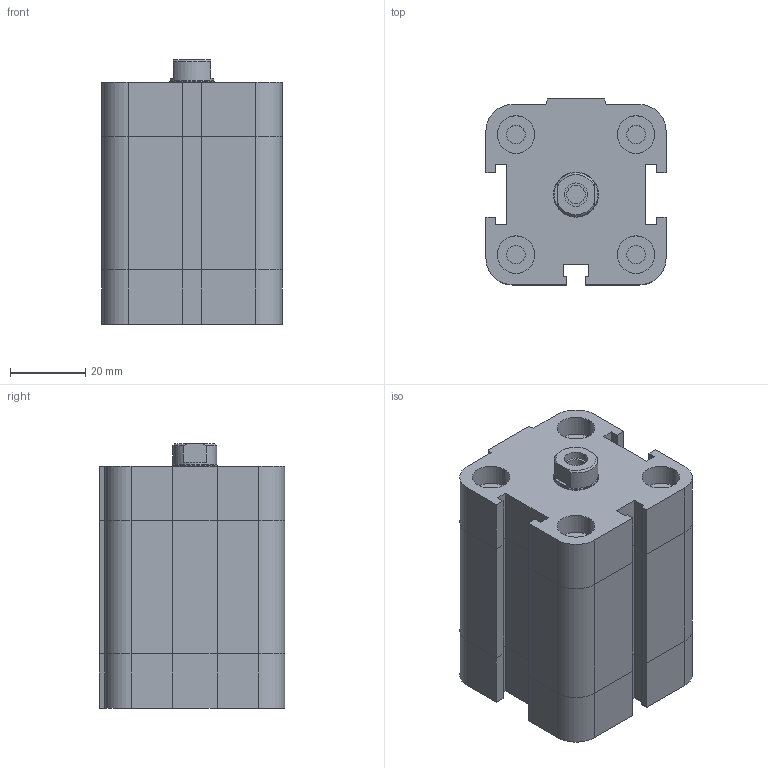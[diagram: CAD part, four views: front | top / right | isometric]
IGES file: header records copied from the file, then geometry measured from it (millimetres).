
Global section: file name: No Iges File Name specified; native system: Autodesk Inventor 2009; preprocessor: AutoDesk Inventor Iges Exporter R2009; author: rivolro1; date: 20081219.154145; units: millimetre
Bounding box: 48 x 49.5 x 70.5 mm (x, y, z)
Volume: 129228.1 mm3; surface area: 26300.6 mm2
Topology: 2 solids, 2 shells, 187 faces, 410 edges, 248 vertices
Faces by surface type: plane 112, bspline 39, revolution 16, cylinder 16, cone 4
